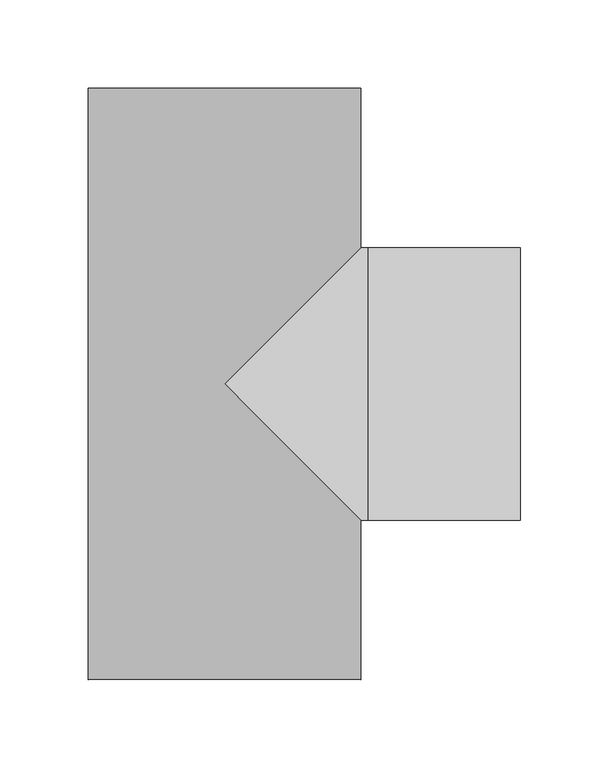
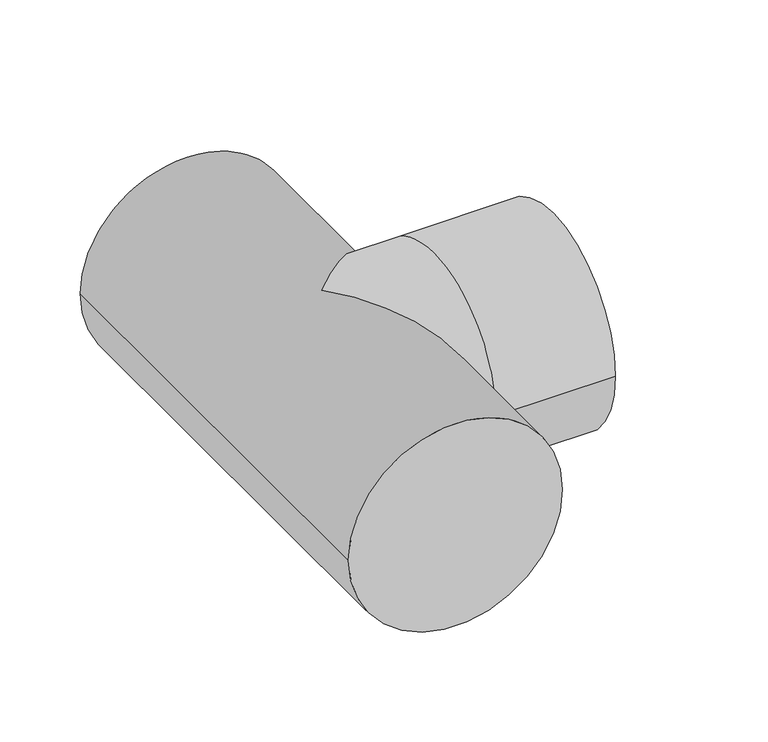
"""IFC4 building model written with IfcOpenShell, lengths in millimetres: pipe fitting geometry, 01051003 : Tés à 90º."""

import ifcopenshell
import ifcopenshell.guid

model = None  # the IFC model being written
_history = None  # IfcOwnerHistory: only IFC2X3 demands one
_inside = {}  # id of a spatial element -> (the spatial element, [elements in it])
_under = {}  # id of a project, library or spatial element -> (it, [spatial elements below it])
_declared = {}  # id of a project -> (the project, [libraries it declares])
_typed = {}  # id of a type object -> (the type object, [elements of that type])
_made_of = {}  # id of a material, layer set ... -> (it, [elements and type objects made of it])


def new_model(schema):
    """Start an empty IFC model of exactly this schema.

    Asked for "IFC4X3", IfcOpenShell would pick the latest addendum, in which some entities
    have other attributes; the version numbers below select the first issue.
    IFC2X3 requires an IfcOwnerHistory on every rooted entity: one is made here for all.
    """
    global model, _history
    if schema == "IFC4X3":
        model = ifcopenshell.file(schema_version=(4, 3, 0, 0))
    else:
        model = ifcopenshell.file(schema=schema)
    _inside.clear()
    _under.clear()
    _declared.clear()
    _typed.clear()
    _made_of.clear()
    _history = None
    if model.schema == "IFC2X3":
        org = make("IfcOrganization", Name="unknown")
        user = make(
            "IfcPersonAndOrganization",
            ThePerson=make("IfcPerson", FamilyName="unknown"),
            TheOrganization=org,
        )
        app = make(
            "IfcApplication",
            ApplicationDeveloper=org,
            Version="unknown",
            ApplicationFullName="unknown",
            ApplicationIdentifier="unknown",
        )
        _history = make(
            "IfcOwnerHistory",
            OwningUser=user,
            OwningApplication=app,
            ChangeAction="ADDED",
            CreationDate=0,
        )
    return model


def make(cls, **values):
    """One entity of the class cls with the attributes given. An attribute that is None is left unset."""
    return model.create_entity(
        cls, **{name: value for name, value in values.items() if value is not None}
    )


def rooted(cls, **values):
    """An entity with a GlobalId (a new one), such as an element, a storey or a relation."""
    return make(cls, GlobalId=ifcopenshell.guid.new(), OwnerHistory=_history, **values)


def si_unit(unit_type, name, prefix=None):
    """IfcSIUnit, for example si_unit("LENGTHUNIT", "METRE", prefix="MILLI")."""
    return make("IfcSIUnit", UnitType=unit_type, Prefix=prefix, Name=name)


def assignment(units):
    """IfcUnitAssignment: the units of a project."""
    return None if units is None else make("IfcUnitAssignment", Units=units)


def point(xyz):
    """IfcCartesianPoint."""
    return None if xyz is None else make("IfcCartesianPoint", Coordinates=xyz)


def direction(xyz):
    """IfcDirection."""
    return None if xyz is None else make("IfcDirection", DirectionRatios=xyz)


def frame(location, z_axis=None, x_axis=None):
    """IfcAxis2Placement3D, a coordinate frame: its origin and axes. An axis left out is left unset."""
    return make(
        "IfcAxis2Placement3D",
        Location=point(location),
        Axis=direction(z_axis),
        RefDirection=direction(x_axis),
    )


def origin():
    """The frame at (0, 0, 0) with its axes left unset."""
    return frame((0.0, 0.0, 0.0))


def place(relative_to, where):
    """IfcLocalPlacement: puts the frame where relative to a parent placement (None: the world)."""
    return make(
        "IfcLocalPlacement", PlacementRelTo=relative_to, RelativePlacement=where
    )


def context(
    kind, dimensions, precision=None, world=None, true_north=None, identifier=None
):
    """IfcGeometricRepresentationContext, for example the 3D "Model" context."""
    return make(
        "IfcGeometricRepresentationContext",
        ContextIdentifier=identifier,
        ContextType=kind,
        CoordinateSpaceDimension=dimensions,
        Precision=precision,
        WorldCoordinateSystem=world,
        TrueNorth=true_north,
    )


def project(units=None, contexts=None):
    """IfcProject with its units and contexts."""
    return rooted(
        "IfcProject",
        Name="project",
        RepresentationContexts=contexts,
        UnitsInContext=assignment(units),
    )


def spatial(cls, under=None, at=None, **own):
    """A site, building, storey or space (cls), placed at a placement, below another one or the project."""
    s = rooted(cls, ObjectPlacement=at, **own)
    if under is not None:
        _under.setdefault(under.id(), (under, []))[1].append(s)
    return s


def circle_curve(where, radius):
    """IfcCircle in the frame where."""
    return make("IfcCircle", Position=where, Radius=radius)


def ellipse_curve(where, semi_axis1, semi_axis2):
    """IfcEllipse in the frame where."""
    return make(
        "IfcEllipse", Position=where, SemiAxis1=semi_axis1, SemiAxis2=semi_axis2
    )


def shape(context_of_items, identifier, shape_type, items):
    """IfcShapeRepresentation: the items that make up one representation, for example the "Body"."""
    return make(
        "IfcShapeRepresentation",
        ContextOfItems=context_of_items,
        RepresentationIdentifier=identifier,
        RepresentationType=shape_type,
        Items=items,
    )


def source(mapping_origin, context_of_items, identifier, shape_type, items):
    """IfcRepresentationMap: a shape defined once, which mapped items show again and again."""
    return make(
        "IfcRepresentationMap",
        MappingOrigin=mapping_origin,
        MappedRepresentation=shape(context_of_items, identifier, shape_type, items),
    )


def transform(
    local_origin,
    x_axis=None,
    y_axis=None,
    z_axis=None,
    scale=None,
    scale2=None,
    scale3=None,
    uniform=True,
):
    """IfcCartesianTransformationOperator3D, or its non-uniform kind. x_axis, y_axis, z_axis: its Axis1, 2, 3."""
    if uniform:
        return make(
            "IfcCartesianTransformationOperator3D",
            Axis1=direction(x_axis),
            Axis2=direction(y_axis),
            LocalOrigin=point(local_origin),
            Scale=scale,
            Axis3=direction(z_axis),
        )
    return make(
        "IfcCartesianTransformationOperator3DnonUniform",
        Axis1=direction(x_axis),
        Axis2=direction(y_axis),
        LocalOrigin=point(local_origin),
        Scale=scale,
        Axis3=direction(z_axis),
        Scale2=scale2,
        Scale3=scale3,
    )


def mapped(mapping_source, mapping_target):
    """IfcMappedItem: shows the shape of a source again, moved by a transform."""
    return make(
        "IfcMappedItem", MappingSource=mapping_source, MappingTarget=mapping_target
    )


def made_of(thing, what):
    """Note that an element or type object is made of a material, layer set ...; save() writes the relation."""
    if what is not None:
        _made_of.setdefault(what.id(), (what, []))[1].append(thing)
    return thing


def element(
    cls,
    number,
    at=None,
    inside=None,
    cuts=None,
    type_object=None,
    material=None,
    context=None,
    identifier="Body",
    shape_type=None,
    held_by="IfcProductDefinitionShape",
    body=None,
    shapes=None,
    **own,
):
    """One element of the class cls, such as IfcWall. Its Tag is "e" and its number.

    at: its placement. inside: the storey or other place that contains it. cuts: it is an
    opening in that element (IfcRelVoidsElement). A single representation is given by context,
    identifier, shape_type and body (its items); several are given by shapes. held_by: the class
    of the entity that holds the representations. save() writes the other relations.
    """
    e = rooted(cls, Tag="e%d" % number, ObjectPlacement=at, **own)
    if body is not None:
        shapes = [shape(context, identifier, shape_type, body)]
    if shapes is not None:
        e.Representation = make(held_by, Representations=shapes)
    if inside is not None:
        _inside.setdefault(inside.id(), (inside, []))[1].append(e)
    if cuts is not None:
        rooted(
            "IfcRelVoidsElement", RelatingBuildingElement=cuts, RelatedOpeningElement=e
        )
    if type_object is not None:
        _typed.setdefault(type_object.id(), (type_object, []))[1].append(e)
    return made_of(e, material)


def aggregate(whole, parts):
    """IfcRelAggregates: a whole, such as a stair, and the parts it consists of."""
    return rooted("IfcRelAggregates", RelatingObject=whole, RelatedObjects=parts)


def save(model, path):
    """Write the relations noted so far, then the file.

    IfcRelAggregates (storeys below a building ...), IfcRelContainedInSpatialStructure (elements
    in a storey), IfcRelDefinesByType, IfcRelAssociatesMaterial and IfcRelDeclares: one each for
    every whole, place, type object, material and project.
    """
    for whole, parts in _under.values():
        aggregate(whole, parts)
    for where, things in _inside.values():
        rooted(
            "IfcRelContainedInSpatialStructure",
            RelatedElements=things,
            RelatingStructure=where,
        )
    for kind, things in _typed.values():
        rooted("IfcRelDefinesByType", RelatedObjects=things, RelatingType=kind)
    for what, things in _made_of.values():
        rooted("IfcRelAssociatesMaterial", RelatedObjects=things, RelatingMaterial=what)
    for by, libraries in _declared.values():
        rooted("IfcRelDeclares", RelatingContext=by, RelatedDefinitions=libraries)
    model.write(path)


def plane_surface(at):
    """IfcPlane: the flat surface through the origin of the frame at, square to its z axis."""
    return make("IfcPlane", Position=at)


def cylinder_surface(at, radius):
    """IfcCylindricalSurface: all points at the distance radius from the z axis of the frame at."""
    return make("IfcCylindricalSurface", Position=at, Radius=radius)


def advanced_brep(points, edges, surfaces, faces):
    """IfcAdvancedBrep: a solid bounded by faces that lie on surfaces and meet in shared edges.

    An edge is (start, end): straight between two places in points (the first is 0);
    or (start, end, curve); or (start, end, curve, False) where it runs against its curve.
    A face is (place in surfaces, loops), or (place, loops, False) where it looks against
    its surface's normal. A loop lists edges by number (the first is 1), with a minus sign
    where the edge is run from its end to its start. The first loop is the outer one.
    """
    corners = [point(p) for p in points]
    vertices = [make("IfcVertexPoint", VertexGeometry=c) for c in corners]
    made = []
    for start, end, *more in edges:
        made.append(
            make(
                "IfcEdgeCurve",
                EdgeStart=vertices[start],
                EdgeEnd=vertices[end],
                EdgeGeometry=more[0] if more else make("IfcPolyline", Points=[corners[start], corners[end]]),
                SameSense=more[1] if len(more) > 1 else True,
            )
        )
    hull = []
    for where, loops, *sense in faces:
        bounds = []
        for j, loop in enumerate(loops):
            ring = [make("IfcOrientedEdge", EdgeElement=made[abs(k) - 1], Orientation=k > 0) for k in loop]
            bounds.append(
                make(
                    "IfcFaceOuterBound" if j == 0 else "IfcFaceBound",
                    Bound=make("IfcEdgeLoop", EdgeList=ring),
                    Orientation=True,
                )
            )
        hull.append(make("IfcAdvancedFace", Bounds=bounds, FaceSurface=surfaces[where], SameSense=sense[0] if sense else True))
    return make("IfcAdvancedBrep", Outer=make("IfcClosedShell", CfsFaces=hull))


def pipe_fitting_7972951c(model_context):
    return source(origin(), model_context, "Body", "AdvancedBrep", [
        advanced_brep(
        [(-76.95, 167.0, 0.0), (76.95, 167.0, 0.0), (-76.95, -167.0, 0.0), (76.95, -167.0, 0.0), (76.95, -76.95, 0.0), (0.0, 0.0, 76.95), (76.95, 76.95, 0.0), (0.0, 0.0, -76.95), (167.0, 76.95, 0.0), (167.0, -76.95, 0.0), (81.0, -76.95, 0.0), (81.0, 76.95, 0.0)],
        [
            (0, 1, circle_curve(frame((0.0, 167.0, 0.0), z_axis=(0.0, 1.0, 0.0), x_axis=(1.0, 0.0, 0.0)), 76.95)),
            (1, 0, circle_curve(frame((0.0, 167.0, 0.0), z_axis=(0.0, 1.0, 0.0), x_axis=(1.0, 0.0, 0.0)), 76.95)),
            (2, 3, circle_curve(frame((0.0, -167.0, 0.0), z_axis=(0.0, -1.0, 0.0), x_axis=(1.0, 0.0, 0.0)), 76.95)),
            (3, 2, circle_curve(frame((0.0, -167.0, 0.0), z_axis=(0.0, -1.0, 0.0), x_axis=(1.0, 0.0, 0.0)), 76.95)),
            (0, 2),
            (3, 4),
            (4, 5, ellipse_curve(frame((0.0, 0.0, 0.0), z_axis=(-0.7071067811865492, -0.7071067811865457, 0.0), x_axis=(-0.7071067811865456, 0.7071067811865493, 0.0)), 108.8237336, 76.95)),
            (5, 6, ellipse_curve(frame((0.0, 0.0, 0.0), z_axis=(-0.7071067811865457, 0.7071067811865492, 0.0), x_axis=(0.7071067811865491, 0.7071067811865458, 0.0)), 108.8237336, 76.95)),
            (6, 1),
            (6, 7, ellipse_curve(frame((0.0, 0.0, 0.0), z_axis=(-0.7071067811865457, 0.7071067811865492, 0.0), x_axis=(0.7071067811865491, 0.7071067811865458, 0.0)), 108.8237336, 76.95)),
            (7, 4, ellipse_curve(frame((0.0, 0.0, 0.0), z_axis=(-0.7071067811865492, -0.7071067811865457, 0.0), x_axis=(-0.7071067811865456, 0.7071067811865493, 0.0)), 108.8237336, 76.95)),
            (8, 9, circle_curve(frame((167.0, 0.0, 0.0), z_axis=(1.0, 0.0, 0.0), x_axis=(0.0, -1.0, 0.0)), 76.95)),
            (9, 8, circle_curve(frame((167.0, 0.0, 0.0), z_axis=(1.0, 0.0, 0.0), x_axis=(0.0, -1.0, 0.0)), 76.95)),
            (10, 11, circle_curve(frame((81.0, 0.0, 0.0), z_axis=(-1.0, 0.0, 0.0), x_axis=(0.0, -1.0, 0.0)), 76.95)),
            (11, 6),
            (4, 10),
            (11, 10, circle_curve(frame((81.0, 0.0, 0.0), z_axis=(-1.0, 0.0, 0.0), x_axis=(0.0, -1.0, 0.0)), 76.95)),
            (8, 11),
            (10, 9),
        ],
        [
            plane_surface(frame((0.0, 167.0, 0.0), z_axis=(0.0, 1.0, 0.0), x_axis=(0.0, 0.0, 1.0))),
            plane_surface(frame((0.0, -167.0, 0.0), z_axis=(0.0, -1.0, 0.0), x_axis=(0.0, 0.0, 1.0))),
            cylinder_surface(frame((0.0, 167.0, 0.0), z_axis=(0.0, 1.0, 0.0), x_axis=(1.0, 0.0, 0.0)), 76.95),
            plane_surface(frame((167.0, 0.0, 0.0), z_axis=(1.0, 0.0, 0.0), x_axis=(0.0, 0.0, 1.0))),
            cylinder_surface(frame((81.0, 0.0, 0.0), z_axis=(1.0, 0.0, 0.0), x_axis=(0.0, -1.0, 0.0)), 76.95),
            cylinder_surface(frame((167.0, 0.0, 0.0), z_axis=(1.0, 0.0, 0.0), x_axis=(0.0, -1.0, 0.0)), 76.95),
        ],
        [
            (0, [[1, 2]]),
            (1, [[3, 4]]),
            (2, [[-1, 5, -4, 6, 7, 8, 9]]),
            (2, [[-2, -9, 10, 11, -6, -3, -5]]),
            (3, [[12, 13]]),
            (4, [[14, 15, -8, -7, 16]]),
            (4, [[17, -16, -11, -10, -15]]),
            (5, [[-12, 18, -14, 19]]),
            (5, [[-13, -19, -17, -18]]),
        ],
    ),
    ])


if __name__ == "__main__":
    model = new_model("IFC4")
    model_context = context("Model", 3, world=origin())
    ifc_project = project(units=[si_unit("LENGTHUNIT", "METRE", prefix="MILLI")], contexts=[model_context])
    site = spatial("IfcSite", under=ifc_project)
    building = spatial("IfcBuilding", under=site)
    placement = place(None, origin())
    pipe_fitting_shape = pipe_fitting_7972951c(model_context)
    element("IfcPipeFitting", 1, ObjectType="01051003 : Tés à 90º", at=placement, inside=building, context=model_context, shape_type="MappedRepresentation", body=[
        mapped(pipe_fitting_shape, transform((0.0, 0.0, 0.0), x_axis=(1.0, 0.0, 0.0), y_axis=(0.0, 1.0, 0.0), z_axis=(0.0, 0.0, 1.0))),
    ])
    save(model, "model.ifc")
